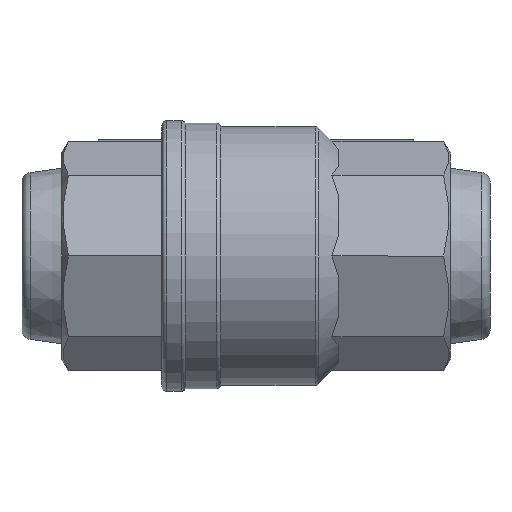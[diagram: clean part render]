
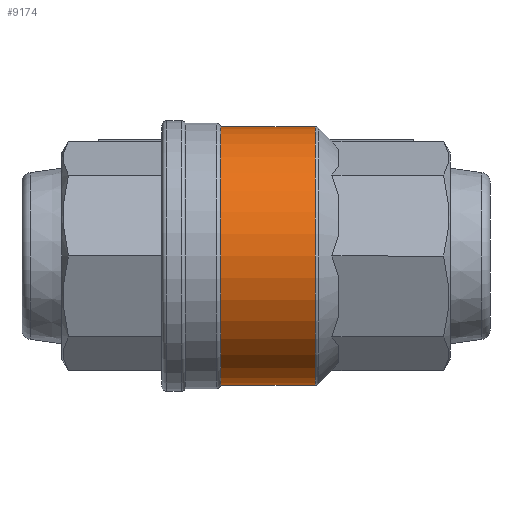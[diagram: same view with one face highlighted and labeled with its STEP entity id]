
A CAD part, front view. The second image highlights one B-rep face of the part: STEP entity #9174.
In plain terms, the highlighted cylindrical face has radius 55 mm (diameter 110 mm), a partial arc.
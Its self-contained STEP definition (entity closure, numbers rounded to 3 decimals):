
#653 = CARTESIAN_POINT ( 'NONE',  ( -15., 0., -55. ) ) ;
#655 = CARTESIAN_POINT ( 'NONE',  ( 25.172, 0., 55. ) ) ;
#671 = CARTESIAN_POINT ( 'NONE',  ( -15., 0., 55. ) ) ;
#681 = CARTESIAN_POINT ( 'NONE',  ( 25.172, 0., -55. ) ) ;
#727 = ORIENTED_EDGE ( 'NONE', *, *, #8970, .T. ) ;
#728 = ORIENTED_EDGE ( 'NONE', *, *, #9060, .T. ) ;
#729 = ORIENTED_EDGE ( 'NONE', *, *, #9052, .T. ) ;
#730 = ORIENTED_EDGE ( 'NONE', *, *, #9038, .F. ) ;
#1088 = VERTEX_POINT ( 'NONE', #653 ) ;
#1090 = VERTEX_POINT ( 'NONE', #655 ) ;
#1106 = VERTEX_POINT ( 'NONE', #671 ) ;
#1116 = VERTEX_POINT ( 'NONE', #681 ) ;
#2650 = CARTESIAN_POINT ( 'NONE',  ( 25.172, 0., 0. ) ) ;
#2651 = DIRECTION ( 'NONE',  ( -1., 0., 0. ) ) ;
#2652 = DIRECTION ( 'NONE',  ( 0., 0., -1. ) ) ;
#4423 = LINE ( 'NONE', #4424, #6060 ) ;
#4424 = CARTESIAN_POINT ( 'NONE',  ( -15., 0., 55. ) ) ;
#4426 = DIRECTION ( 'NONE',  ( 1., 0., 0. ) ) ;
#4532 = CARTESIAN_POINT ( 'NONE',  ( -15., 0., 0. ) ) ;
#4534 = DIRECTION ( 'NONE',  ( 1., 0., 0. ) ) ;
#4535 = DIRECTION ( 'NONE',  ( 0., 0., 1. ) ) ;
#4547 = LINE ( 'NONE', #4566, #5886 ) ;
#4566 = CARTESIAN_POINT ( 'NONE',  ( -15., 0., -55. ) ) ;
#4610 = DIRECTION ( 'NONE',  ( 1., 0., 0. ) ) ;
#5472 = CARTESIAN_POINT ( 'NONE',  ( -15., 0., 0. ) ) ;
#5474 = DIRECTION ( 'NONE',  ( 1., 0., 0. ) ) ;
#5477 = CYLINDRICAL_SURFACE ( 'NONE', #6035, 55. ) ;
#5478 = FACE_OUTER_BOUND ( 'NONE', #10929, .T. ) ;
#5480 = DIRECTION ( 'NONE',  ( 0., 0., -1. ) ) ;
#5789 = CIRCLE ( 'NONE', #6279, 55. ) ;
#5886 = VECTOR ( 'NONE', #4610, 1000. ) ;
#6035 = AXIS2_PLACEMENT_3D ( 'NONE', #5472, #5474, #5480 ) ;
#6060 = VECTOR ( 'NONE', #4426, 1000. ) ;
#6279 = AXIS2_PLACEMENT_3D ( 'NONE', #4532, #4534, #4535 ) ;
#6330 = AXIS2_PLACEMENT_3D ( 'NONE', #2650, #2651, #2652 ) ;
#6355 = CIRCLE ( 'NONE', #6330, 55. ) ;
#8970 = EDGE_CURVE ( 'NONE', #1116, #1090, #6355, .T. ) ;
#9038 = EDGE_CURVE ( 'NONE', #1106, #1090, #4423, .T. ) ;
#9052 = EDGE_CURVE ( 'NONE', #1106, #1088, #5789, .T. ) ;
#9060 = EDGE_CURVE ( 'NONE', #1088, #1116, #4547, .T. ) ;
#9174 = ADVANCED_FACE ( 'NONE', ( #5478 ), #5477, .T. ) ;
#10929 = EDGE_LOOP ( 'NONE', ( #730, #729, #728, #727 ) ) ;
